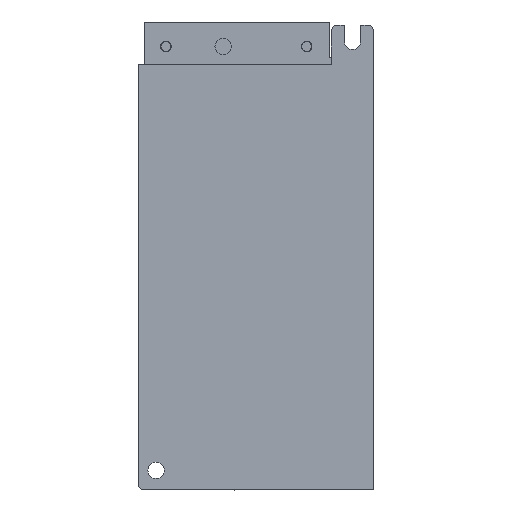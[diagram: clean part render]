
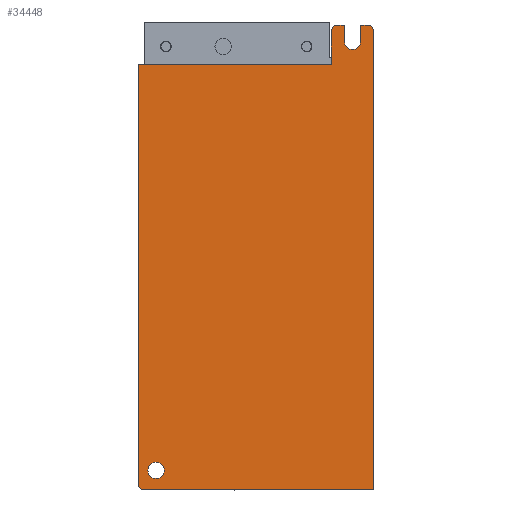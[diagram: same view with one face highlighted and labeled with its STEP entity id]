
A CAD part, front view. The second image highlights one B-rep face of the part: STEP entity #34448.
In plain terms, the highlighted planar face has unit normal (0, -1, 0).
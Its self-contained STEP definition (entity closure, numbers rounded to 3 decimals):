
#9104=DIRECTION('',(0.,0.,-1.));
#9105=VECTOR('',#9104,128.);
#9106=CARTESIAN_POINT('',(36.,-6.,128.));
#9107=LINE('',#9106,#9105);
#9116=DIRECTION('',(-1.,0.,0.));
#9117=VECTOR('',#9116,59.);
#9118=CARTESIAN_POINT('',(36.,-6.,0.));
#9119=LINE('',#9118,#9117);
#9192=CARTESIAN_POINT('',(-34.,-6.,-10.));
#9193=DIRECTION('',(0.,-1.,0.));
#9194=DIRECTION('',(-1.,0.,0.));
#9195=AXIS2_PLACEMENT_3D('',#9192,#9193,#9194);
#9197=DIRECTION('',(0.,0.,-1.));
#9198=VECTOR('',#9197,140.);
#9199=CARTESIAN_POINT('',(-36.,-6.,130.));
#9200=LINE('',#9199,#9198);
#9201=DIRECTION('',(-1.,0.,0.));
#9202=VECTOR('',#9201,70.);
#9203=CARTESIAN_POINT('',(34.,-6.,130.));
#9204=LINE('',#9203,#9202);
#9205=CARTESIAN_POINT('',(34.,-6.,128.));
#9206=DIRECTION('',(0.,-1.,0.));
#9207=DIRECTION('',(1.,0.,0.));
#9208=AXIS2_PLACEMENT_3D('',#9205,#9206,#9207);
#9210=CARTESIAN_POINT('',(-25.,-6.,-10.));
#9211=DIRECTION('',(0.,-1.,0.));
#9212=DIRECTION('',(0.,0.,-1.));
#9213=AXIS2_PLACEMENT_3D('',#9210,#9211,#9212);
#9215=CARTESIAN_POINT('',(-29.5,-6.,-7.));
#9216=DIRECTION('',(0.,1.,0.));
#9217=DIRECTION('',(-1.,0.,0.));
#9218=AXIS2_PLACEMENT_3D('',#9215,#9216,#9217);
#9220=CARTESIAN_POINT('',(30.5,-6.,124.));
#9221=DIRECTION('',(0.,1.,0.));
#9222=DIRECTION('',(-1.,0.,0.));
#9223=AXIS2_PLACEMENT_3D('',#9220,#9221,#9222);
#9225=CARTESIAN_POINT('',(30.5,-6.,124.));
#9226=DIRECTION('',(0.,1.,0.));
#9227=DIRECTION('',(1.,0.,0.));
#9228=AXIS2_PLACEMENT_3D('',#9225,#9226,#9227);
#9230=DIRECTION('',(0.,0.,-1.));
#9231=VECTOR('',#9230,10.);
#9232=CARTESIAN_POINT('',(-23.,-6.,0.));
#9233=LINE('',#9232,#9231);
#9250=DIRECTION('',(-1.,0.,0.));
#9251=VECTOR('',#9250,2.);
#9252=CARTESIAN_POINT('',(-25.,-6.,-12.));
#9253=LINE('',#9252,#9251);
#9254=DIRECTION('',(0.,0.,1.));
#9255=VECTOR('',#9254,5.);
#9256=CARTESIAN_POINT('',(-27.,-6.,-12.));
#9257=LINE('',#9256,#9255);
#9266=DIRECTION('',(0.,0.,-1.));
#9267=VECTOR('',#9266,5.);
#9268=CARTESIAN_POINT('',(-32.,-6.,-7.));
#9269=LINE('',#9268,#9267);
#9274=DIRECTION('',(-1.,0.,0.));
#9275=VECTOR('',#9274,2.);
#9276=CARTESIAN_POINT('',(-32.,-6.,-12.));
#9277=LINE('',#9276,#9275);
#14473=CARTESIAN_POINT('',(-36.,-6.,130.));
#14474=VERTEX_POINT('',#14473);
#14475=CARTESIAN_POINT('',(34.,-6.,130.));
#14476=VERTEX_POINT('',#14475);
#17780=CARTESIAN_POINT('',(-34.,-6.,-12.));
#17782=VERTEX_POINT('',#17780);
#17785=CARTESIAN_POINT('',(-32.,-6.,-12.));
#17786=VERTEX_POINT('',#17785);
#17787=CARTESIAN_POINT('',(-32.,-6.,-7.));
#17788=VERTEX_POINT('',#17787);
#17791=CARTESIAN_POINT('',(-27.,-6.,-7.));
#17792=VERTEX_POINT('',#17791);
#17795=CARTESIAN_POINT('',(-27.,-6.,-12.));
#17796=VERTEX_POINT('',#17795);
#17799=CARTESIAN_POINT('',(-25.,-6.,-12.));
#17801=VERTEX_POINT('',#17799);
#17805=CARTESIAN_POINT('',(-23.,-6.,-10.));
#17806=VERTEX_POINT('',#17805);
#17807=CARTESIAN_POINT('',(-36.,-6.,-10.));
#17809=VERTEX_POINT('',#17807);
#17813=CARTESIAN_POINT('',(-23.,-6.,0.));
#17814=VERTEX_POINT('',#17813);
#17815=CARTESIAN_POINT('',(36.,-6.,128.));
#17817=VERTEX_POINT('',#17815);
#17819=CARTESIAN_POINT('',(36.,-6.,0.));
#17820=VERTEX_POINT('',#17819);
#17991=CARTESIAN_POINT('',(28.,-6.,124.));
#17993=VERTEX_POINT('',#17991);
#17994=CARTESIAN_POINT('',(33.,-6.,124.));
#17995=VERTEX_POINT('',#17994);
#34415=CARTESIAN_POINT('',(43.2,-6.,-12.));
#34416=DIRECTION('',(0.,1.,0.));
#34417=DIRECTION('',(0.,0.,1.));
#34418=AXIS2_PLACEMENT_3D('',#34415,#34416,#34417);
#34419=PLANE('',#34418);
#34420=ORIENTED_EDGE('',*,*,#34380,.F.);
#34421=ORIENTED_EDGE('',*,*,#34403,.F.);
#34422=ORIENTED_EDGE('',*,*,#18142,.F.);
#34423=ORIENTED_EDGE('',*,*,#34209,.F.);
#34424=ORIENTED_EDGE('',*,*,#34232,.T.);
#34425=ORIENTED_EDGE('',*,*,#34255,.T.);
#34427=ORIENTED_EDGE('',*,*,#34426,.T.);
#34429=ORIENTED_EDGE('',*,*,#34428,.F.);
#34431=ORIENTED_EDGE('',*,*,#34430,.T.);
#34433=ORIENTED_EDGE('',*,*,#34432,.T.);
#34435=ORIENTED_EDGE('',*,*,#34434,.F.);
#34437=ORIENTED_EDGE('',*,*,#34436,.T.);
#34439=ORIENTED_EDGE('',*,*,#34438,.T.);
#34440=EDGE_LOOP('',(#34420,#34421,#34422,#34423,#34424,#34425,#34427,#34429,
#34431,#34433,#34435,#34437,#34439));
#34441=FACE_OUTER_BOUND('',#34440,.F.);
#34443=ORIENTED_EDGE('',*,*,#34442,.F.);
#34445=ORIENTED_EDGE('',*,*,#34444,.F.);
#34446=EDGE_LOOP('',(#34443,#34445));
#34447=FACE_BOUND('',#34446,.F.);
#9196=CIRCLE('',#9195,2.);
#9209=CIRCLE('',#9208,2.);
#9214=CIRCLE('',#9213,2.);
#9219=CIRCLE('',#9218,2.5);
#9224=CIRCLE('',#9223,2.5);
#9229=CIRCLE('',#9228,2.5);
#18142=EDGE_CURVE('',#14476,#14474,#9204,.T.);
#34209=EDGE_CURVE('',#17817,#14476,#9209,.T.);
#34232=EDGE_CURVE('',#17817,#17820,#9107,.T.);
#34255=EDGE_CURVE('',#17820,#17814,#9119,.T.);
#34380=EDGE_CURVE('',#17809,#17782,#9196,.T.);
#34403=EDGE_CURVE('',#14474,#17809,#9200,.T.);
#34426=EDGE_CURVE('',#17814,#17806,#9233,.T.);
#34428=EDGE_CURVE('',#17801,#17806,#9214,.T.);
#34430=EDGE_CURVE('',#17801,#17796,#9253,.T.);
#34432=EDGE_CURVE('',#17796,#17792,#9257,.T.);
#34434=EDGE_CURVE('',#17788,#17792,#9219,.T.);
#34436=EDGE_CURVE('',#17788,#17786,#9269,.T.);
#34438=EDGE_CURVE('',#17786,#17782,#9277,.T.);
#34442=EDGE_CURVE('',#17993,#17995,#9224,.T.);
#34444=EDGE_CURVE('',#17995,#17993,#9229,.T.);
#34448=ADVANCED_FACE('',(#34441,#34447),#34419,.F.);
